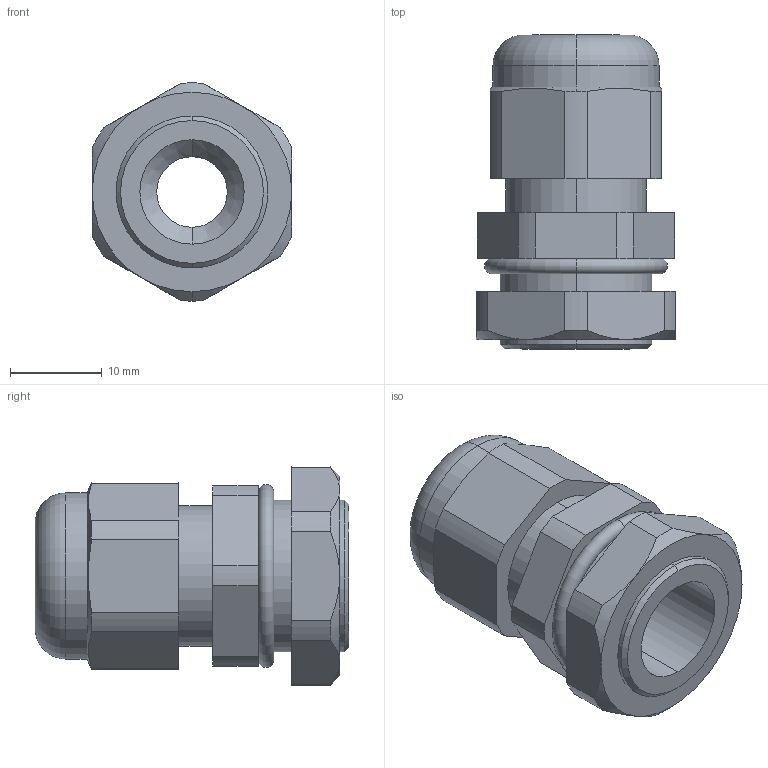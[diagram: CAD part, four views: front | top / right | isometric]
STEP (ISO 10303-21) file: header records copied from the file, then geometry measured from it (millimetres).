
FILE_DESCRIPTION (( 'STEP AP203' ), '1' );
FILE_NAME ('CH-B3_8.STEP', '2018-02-07T14:48:58', ( '' ), ( '' ), 'SwSTEP 2.0', 'SolidWorks 2012', '' );
FILE_SCHEMA (( 'CONFIG_CONTROL_DESIGN' ));
Length unit declared in the file: millimetre
Products named in the file (1): CH-B3_8
Bounding box: 21.8 x 34.3 x 23.84 mm (x, y, z)
Volume: 7229.1 mm3; surface area: 4299.6 mm2
Topology: 1 solids, 1 shells, 78 faces, 189 edges, 118 vertices
Faces by surface type: cylinder 34, plane 25, cone 15, torus 4
Entity records: 2442 total; most frequent: CARTESIAN_POINT 496, DIRECTION 415, ORIENTED_EDGE 378, EDGE_CURVE 189, AXIS2_PLACEMENT_3D 165, VERTEX_POINT 118, CIRCLE 86, VECTOR 85
